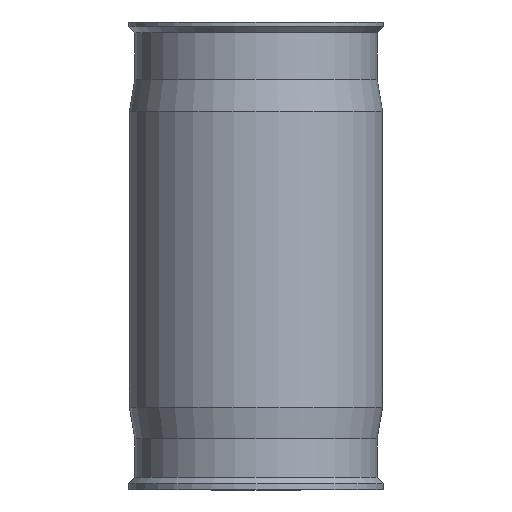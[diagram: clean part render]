
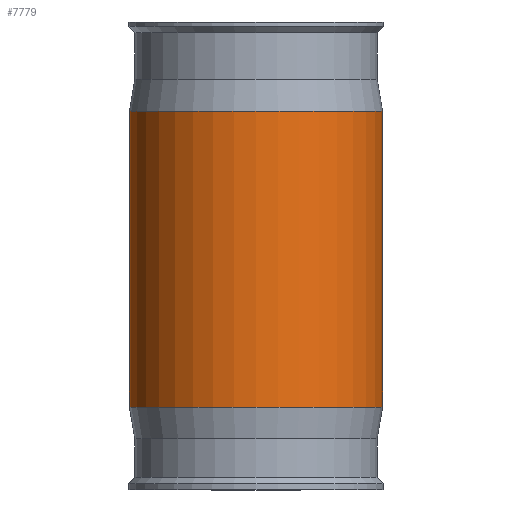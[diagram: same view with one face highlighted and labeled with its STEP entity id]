
A CAD part, front view. The second image highlights one B-rep face of the part: STEP entity #7779.
In plain terms, the highlighted cylindrical face has radius 59.5 mm (diameter 119 mm), a full revolution.
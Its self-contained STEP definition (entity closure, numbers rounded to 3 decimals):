
#6031=CYLINDRICAL_SURFACE('',#22591,59.5);
#6797=B_SPLINE_CURVE_WITH_KNOTS('',3,(#42788,#42789,#42790,#42791,#42792,
#42793,#42794,#42795,#42796,#42797),.UNSPECIFIED.,.F.,.F.,(4,2,2,2,4),(0.,
0.25,0.5,0.75,1.),.UNSPECIFIED.);
#6798=B_SPLINE_CURVE_WITH_KNOTS('',3,(#42850,#42851,#42852,#42853,#42854,
#42855,#42856,#42857,#42858,#42859),.UNSPECIFIED.,.F.,.F.,(4,2,2,2,4),(0.,
0.25,0.5,0.75,1.),.UNSPECIFIED.);
#7779=ADVANCED_FACE('',(#8618,#8619,#8620),#6031,.T.);
#8618=FACE_BOUND('',#9854,.T.);
#8619=FACE_BOUND('',#9855,.T.);
#8620=FACE_BOUND('',#9856,.T.);
#9854=EDGE_LOOP('',(#15080,#15081,#15082,#15083));
#9855=EDGE_LOOP('',(#15084));
#9856=EDGE_LOOP('',(#15085));
#10464=CIRCLE('',#22588,59.5);
#10465=CIRCLE('',#22590,59.5);
#15080=ORIENTED_EDGE('',*,*,#18978,.T.);
#15081=ORIENTED_EDGE('',*,*,#18955,.F.);
#15082=ORIENTED_EDGE('',*,*,#18979,.T.);
#15083=ORIENTED_EDGE('',*,*,#18957,.F.);
#15084=ORIENTED_EDGE('',*,*,#18981,.T.);
#15085=ORIENTED_EDGE('',*,*,#18980,.T.);
#16642=VERTEX_POINT('',#42718);
#16643=VERTEX_POINT('',#42719);
#16644=VERTEX_POINT('',#42721);
#16645=VERTEX_POINT('',#42726);
#16666=VERTEX_POINT('',#42913);
#16667=VERTEX_POINT('',#42916);
#18955=EDGE_CURVE('',#16643,#16644,#19984,.T.);
#18957=EDGE_CURVE('',#16645,#16642,#19985,.T.);
#18978=EDGE_CURVE('',#16645,#16644,#6797,.T.);
#18979=EDGE_CURVE('',#16643,#16642,#6798,.T.);
#18980=EDGE_CURVE('',#16666,#16666,#10464,.T.);
#18981=EDGE_CURVE('',#16667,#16667,#10465,.T.);
#19984=LINE('',#42720,#21144);
#19985=LINE('',#42727,#21145);
#21144=VECTOR('',#26564,1.);
#21145=VECTOR('',#26565,1.);
#22588=AXIS2_PLACEMENT_3D('',#42912,#26646,#26647);
#22590=AXIS2_PLACEMENT_3D('',#42915,#26650,#26651);
#22591=AXIS2_PLACEMENT_3D('',#42917,#26652,#26653);
#26564=DIRECTION('',(0.,0.,-1.));
#26565=DIRECTION('',(0.,0.,1.));
#26646=DIRECTION('',(0.,0.,-1.));
#26647=DIRECTION('',(0.,-1.,0.));
#26650=DIRECTION('',(0.,0.,1.));
#26651=DIRECTION('',(0.,1.,0.));
#26652=DIRECTION('',(0.,0.,1.));
#26653=DIRECTION('',(0.,1.,0.));
#42718=CARTESIAN_POINT('',(-13.721,12.9,7.259));
#42719=CARTESIAN_POINT('',(13.69,12.9,7.26));
#42720=CARTESIAN_POINT('',(13.69,12.9,11.131));
#42721=CARTESIAN_POINT('',(13.69,12.9,-13.258));
#42726=CARTESIAN_POINT('',(-13.721,12.9,-13.259));
#42727=CARTESIAN_POINT('',(-13.721,12.9,913.158));
#42788=CARTESIAN_POINT('',(-13.721,12.9,-13.259));
#42789=CARTESIAN_POINT('',(-12.115,13.28,-15.353));
#42790=CARTESIAN_POINT('',(-10.022,13.701,-17.05));
#42791=CARTESIAN_POINT('',(-5.315,14.311,-19.357));
#42792=CARTESIAN_POINT('',(-2.664,14.5,-19.973));
#42793=CARTESIAN_POINT('',(2.614,14.5,-19.975));
#42794=CARTESIAN_POINT('',(5.257,14.315,-19.37));
#42795=CARTESIAN_POINT('',(10.021,13.697,-17.038));
#42796=CARTESIAN_POINT('',(12.099,13.277,-15.334));
#42797=CARTESIAN_POINT('',(13.69,12.9,-13.258));
#42850=CARTESIAN_POINT('',(13.69,12.9,7.26));
#42851=CARTESIAN_POINT('',(12.086,13.28,9.351));
#42852=CARTESIAN_POINT('',(9.999,13.699,11.046));
#42853=CARTESIAN_POINT('',(5.293,14.31,13.353));
#42854=CARTESIAN_POINT('',(2.647,14.5,13.972));
#42855=CARTESIAN_POINT('',(-2.663,14.5,13.976));
#42856=CARTESIAN_POINT('',(-5.316,14.311,13.359));
#42857=CARTESIAN_POINT('',(-10.047,13.697,11.036));
#42858=CARTESIAN_POINT('',(-12.13,13.277,9.332));
#42859=CARTESIAN_POINT('',(-13.721,12.9,7.259));
#42912=CARTESIAN_POINT('',(-0.016,-45.,84.758));
#42913=CARTESIAN_POINT('',(-0.016,-104.5,84.758));
#42915=CARTESIAN_POINT('',(-0.016,-45.,-54.242));
#42916=CARTESIAN_POINT('',(-0.016,14.5,-54.242));
#42917=CARTESIAN_POINT('',(-0.016,-45.,913.158));
